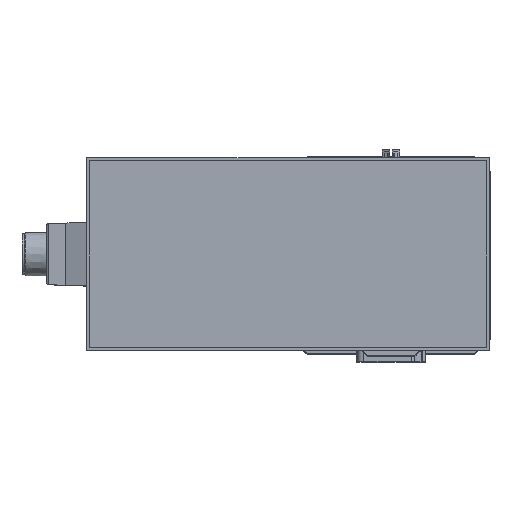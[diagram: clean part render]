
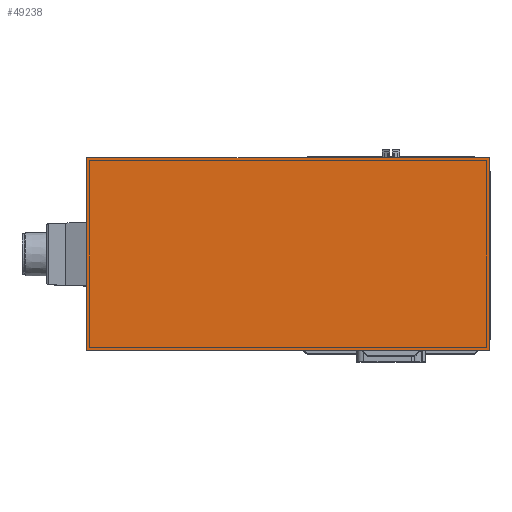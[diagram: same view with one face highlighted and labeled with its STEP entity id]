
A CAD part, top view. The second image highlights one B-rep face of the part: STEP entity #49238.
In plain terms, the highlighted planar face has unit normal (0, 0, 1).
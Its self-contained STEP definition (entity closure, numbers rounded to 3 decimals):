
#49199=CARTESIAN_POINT('',(-75.5,-77.,621.));
#49200=DIRECTION('',(0.,-1.,0.));
#49201=DIRECTION('',(-0.,0.,1.));
#49202=AXIS2_PLACEMENT_3D('',#49199,#49201,#49200);
#49203=PLANE('',#49202);
#49204=CARTESIAN_POINT('',(72.,70.5,621.));
#49205=VERTEX_POINT('',#49204);
#49206=CARTESIAN_POINT('',(-223.,70.5,621.));
#49207=VERTEX_POINT('',#49206);
#49208=CARTESIAN_POINT('',(72.,70.5,621.));
#49209=DIRECTION('',(-1.,0.,0.));
#49210=VECTOR('',#49209,295.);
#49211=LINE('',#49208,#49210);
#49212=EDGE_CURVE('',#49205,#49207,#49211,.T.);
#49213=ORIENTED_EDGE('E7709',*,*,#49212,.T.);
#49214=CARTESIAN_POINT('',(-223.,-70.5,621.));
#49215=VERTEX_POINT('',#49214);
#49216=CARTESIAN_POINT('',(-223.,70.5,621.));
#49217=DIRECTION('',(0.,-1.,0.));
#49218=VECTOR('',#49217,141.);
#49219=LINE('',#49216,#49218);
#49220=EDGE_CURVE('',#49207,#49215,#49219,.T.);
#49221=ORIENTED_EDGE('E7710',*,*,#49220,.T.);
#49222=CARTESIAN_POINT('',(72.,-70.5,621.));
#49223=VERTEX_POINT('',#49222);
#49224=CARTESIAN_POINT('',(-223.,-70.5,621.));
#49225=DIRECTION('',(1.,0.,0.));
#49226=VECTOR('',#49225,295.);
#49227=LINE('',#49224,#49226);
#49228=EDGE_CURVE('',#49215,#49223,#49227,.T.);
#49229=ORIENTED_EDGE('E7711',*,*,#49228,.T.);
#49230=CARTESIAN_POINT('',(72.,-70.5,621.));
#49231=DIRECTION('',(0.,1.,0.));
#49232=VECTOR('',#49231,141.);
#49233=LINE('',#49230,#49232);
#49234=EDGE_CURVE('',#49223,#49205,#49233,.T.);
#49235=ORIENTED_EDGE('E7712',*,*,#49234,.T.);
#49236=EDGE_LOOP('',(#49213,#49221,#49229,#49235));
#49237=FACE_OUTER_BOUND('',#49236,.T.);
#49238=ADVANCED_FACE('F2997',(#49237),#49203,.T.);
